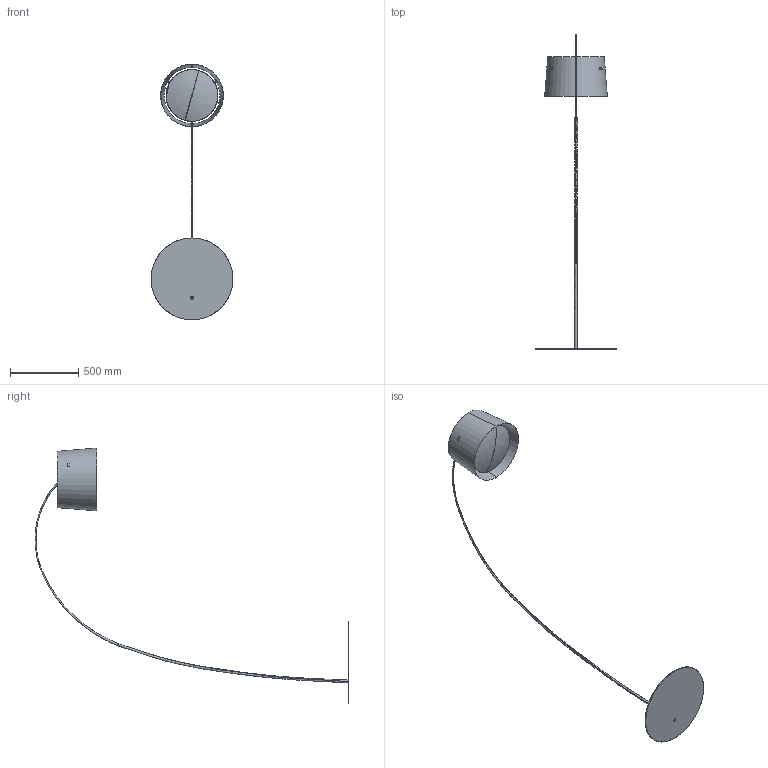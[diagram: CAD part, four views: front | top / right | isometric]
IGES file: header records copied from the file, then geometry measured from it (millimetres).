
Start section: SolidWorks IGES file using analytic representation for surfaces
Global section: file name: F:\foscarini\RS\0_ 2D-3D\TWIGGY WOOD\3d (3ds,dxf,stp,igs)\IGS\TWIGGY WOOD_terra_400mm.IGS; native system: SolidWorks 2020; preprocessor: SolidWorks 2020; author: m.tonasso; date: 200715.104708; units: millimetre
Bounding box: 600 x 2298.95 x 1873.8 mm (x, y, z)
Surface area: 1832895.7 mm2 (no closed solid volume)
Topology: 0 solids, 0 shells, 69 faces, 2540 edges, 2539 vertices
Faces by surface type: bspline 41, revolution 28
